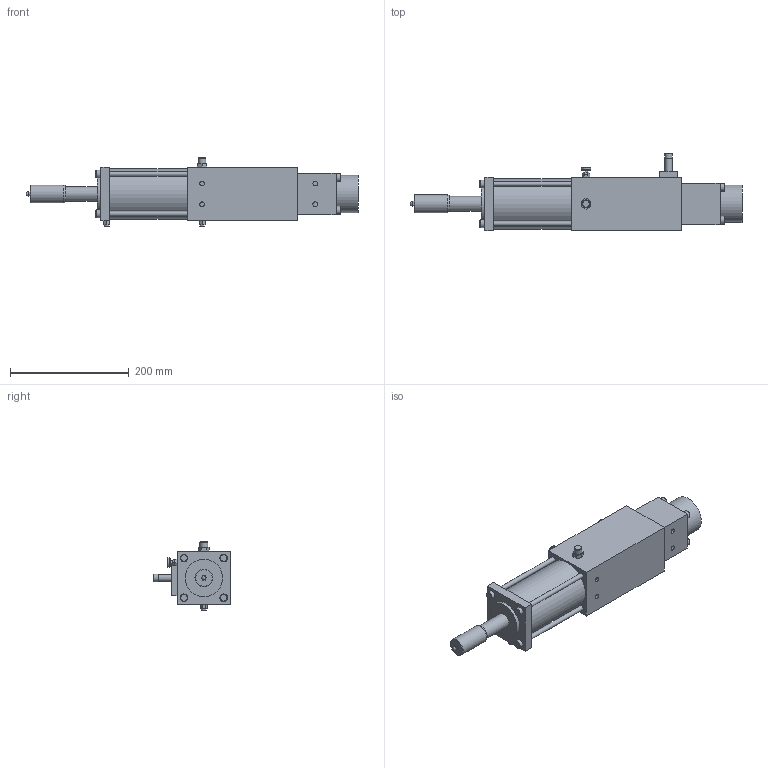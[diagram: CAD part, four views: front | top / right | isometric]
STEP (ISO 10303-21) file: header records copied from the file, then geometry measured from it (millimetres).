
FILE_DESCRIPTION (( 'STEP AP214' ), '1' );
FILE_NAME ('DAV900_SENS.STEP', '2024-10-11T10:20:29', ( '' ), ( '' ), 'SwSTEP 2.0', 'SolidWorks 2024', '' );
FILE_SCHEMA (( 'AUTOMOTIVE_DESIGN' ));
Length unit declared in the file: millimetre
Products named in the file (1): DAV900_SENS
Bounding box: 560 x 130 x 116.5 mm (x, y, z)
Volume: 2951516.5 mm3; surface area: 190351.3 mm2
Topology: 2 solids, 2 shells, 136 faces, 295 edges, 192 vertices
Faces by surface type: plane 92, cylinder 30, cone 13, bspline 1
Full cylindrical faces by diameter (mm): 5 x1, 7 x1, 8 x10, 12 x1, 13 x9, 13.1 x1, 16 x1, 16.6 x1, 25 x1, 30 x1, 63 x2, 85 x1
Entity records: 3385 total; most frequent: DIRECTION 586, CARTESIAN_POINT 564, ORIENTED_EDGE 470, EDGE_CURVE 235, EDGE_LOOP 218, AXIS2_PLACEMENT_3D 215, VERTEX_POINT 177, FACE_OUTER_BOUND 166
